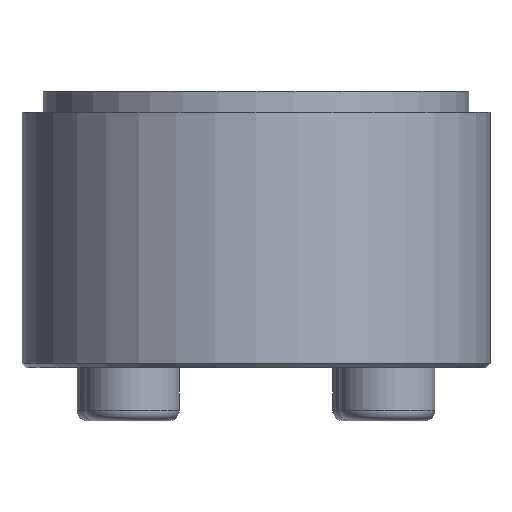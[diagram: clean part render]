
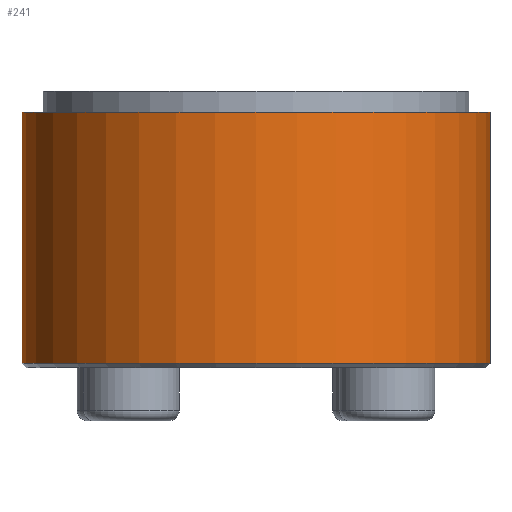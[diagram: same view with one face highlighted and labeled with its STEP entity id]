
A CAD part, front view. The second image highlights one B-rep face of the part: STEP entity #241.
In plain terms, the highlighted cylindrical face has radius 11 mm (diameter 22 mm), a partial arc.
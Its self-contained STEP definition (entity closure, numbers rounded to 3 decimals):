
#13 = AXIS2_PLACEMENT_3D ( 'NONE', #152, #1653, #15 ) ;
#15 = DIRECTION ( 'NONE',  ( -1., 0., 0. ) ) ;
#108 = CARTESIAN_POINT ( 'NONE',  ( 0., 0., 0. ) ) ;
#133 = EDGE_CURVE ( 'NONE', #287, #1607, #1033, .T. ) ;
#152 = CARTESIAN_POINT ( 'NONE',  ( 0., 0., -6.3 ) ) ;
#197 = LINE ( 'NONE', #1323, #889 ) ;
#241 = ADVANCED_FACE ( 'NONE', ( #1684 ), #1032, .T. ) ;
#282 = DIRECTION ( 'NONE',  ( 0., 0., -1. ) ) ;
#287 = VERTEX_POINT ( 'NONE', #1367 ) ;
#357 = EDGE_CURVE ( 'NONE', #1711, #497, #1194, .T. ) ;
#441 = LINE ( 'NONE', #855, #1726 ) ;
#455 = EDGE_LOOP ( 'NONE', ( #1040, #1737, #906, #1311 ) ) ;
#497 = VERTEX_POINT ( 'NONE', #746 ) ;
#534 = DIRECTION ( 'NONE',  ( -1., 0., 0. ) ) ;
#746 = CARTESIAN_POINT ( 'NONE',  ( 11., 0., -6.3 ) ) ;
#823 = DIRECTION ( 'NONE',  ( 0., 0., -1. ) ) ;
#855 = CARTESIAN_POINT ( 'NONE',  ( 11., 0., 0. ) ) ;
#889 = VECTOR ( 'NONE', #1685, 1000. ) ;
#906 = ORIENTED_EDGE ( 'NONE', *, *, #1068, .T. ) ;
#936 = EDGE_CURVE ( 'NONE', #287, #497, #441, .T. ) ;
#938 = AXIS2_PLACEMENT_3D ( 'NONE', #108, #823, #534 ) ;
#1032 = CYLINDRICAL_SURFACE ( 'NONE', #938, 11. ) ;
#1033 = CIRCLE ( 'NONE', #1669, 11. ) ;
#1040 = ORIENTED_EDGE ( 'NONE', *, *, #936, .F. ) ;
#1042 = CARTESIAN_POINT ( 'NONE',  ( -11., 0., 5.5 ) ) ;
#1068 = EDGE_CURVE ( 'NONE', #1607, #1711, #197, .T. ) ;
#1194 = CIRCLE ( 'NONE', #13, 11. ) ;
#1214 = CARTESIAN_POINT ( 'NONE',  ( -11., 0., -6.3 ) ) ;
#1311 = ORIENTED_EDGE ( 'NONE', *, *, #357, .T. ) ;
#1323 = CARTESIAN_POINT ( 'NONE',  ( -11., 0., 0. ) ) ;
#1367 = CARTESIAN_POINT ( 'NONE',  ( 11., 0., 5.5 ) ) ;
#1457 = DIRECTION ( 'NONE',  ( 1., 0., 0. ) ) ;
#1607 = VERTEX_POINT ( 'NONE', #1042 ) ;
#1614 = DIRECTION ( 'NONE',  ( 0., 0., -1. ) ) ;
#1653 = DIRECTION ( 'NONE',  ( 0., 0., 1. ) ) ;
#1669 = AXIS2_PLACEMENT_3D ( 'NONE', #1741, #1614, #1457 ) ;
#1684 = FACE_OUTER_BOUND ( 'NONE', #455, .T. ) ;
#1685 = DIRECTION ( 'NONE',  ( 0., 0., -1. ) ) ;
#1711 = VERTEX_POINT ( 'NONE', #1214 ) ;
#1726 = VECTOR ( 'NONE', #282, 1000. ) ;
#1737 = ORIENTED_EDGE ( 'NONE', *, *, #133, .T. ) ;
#1741 = CARTESIAN_POINT ( 'NONE',  ( 0., 0., 5.5 ) ) ;
